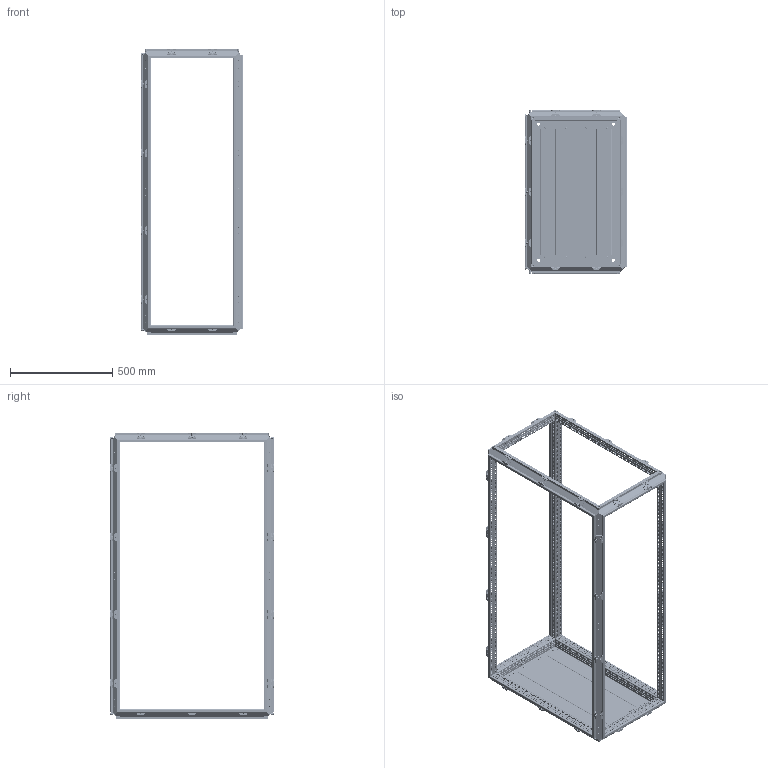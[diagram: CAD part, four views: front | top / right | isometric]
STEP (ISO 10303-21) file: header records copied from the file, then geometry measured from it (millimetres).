
FILE_DESCRIPTION(('STEP AP203'), '1');
FILE_NAME('3000 忺謤僔 捘', '', ('UNSPECIFIED'), ('UNSPECIFIED'), 'C3D Converter', 'C3D Toolkit', '');
FILE_SCHEMA(('CONFIG_CONTROL_DESIGN'));
Length unit declared in the file: millimetre
Products named in the file (12): 3000.140.80.50 СБ; 3000; 3007.75; 3007.200; 3009.04; 3009.04.01; 3009.04.2; 3009.04.01.2
Assembly tree (142 placements, depth 3):
  3000.140.80.50 СБ
    3000
    (unnamed)  x96
    3007.75  x2
    (unnamed)  x8
    3007.200
    3009.04  x10
      3009.04.01
      (unnamed)
      (unnamed)
    3009.04.2  x15
      3009.04.01.2
      (unnamed)
      (unnamed)
Bounding box: 497 x 797 x 1398.5 mm (x, y, z)
Volume: 3221667.5 mm3; surface area: 4252910.4 mm2
Topology: 239 solids, 239 shells, 15441 faces, 42845 edges, 28246 vertices
Faces by surface type: plane 10599, cylinder 3918, cone 636, torus 240, bspline 48
Full cylindrical faces by diameter (mm): 4.134 x136, 4.5 x1528, 4.8 x8, 5 x146, 5.8 x40, 6.8 x192, 7 x96, 7.5 x50, 8 x96, 9.2 x50, 10.106 x8, 14 x4
Entity records: 320068 total; most frequent: CARTESIAN_POINT 59173, ORIENTED_EDGE 51270, DIRECTION 48709, EDGE_CURVE 25635, LINE 20911, VECTOR 20911, VERTEX_POINT 18022, EDGE_LOOP 17337
